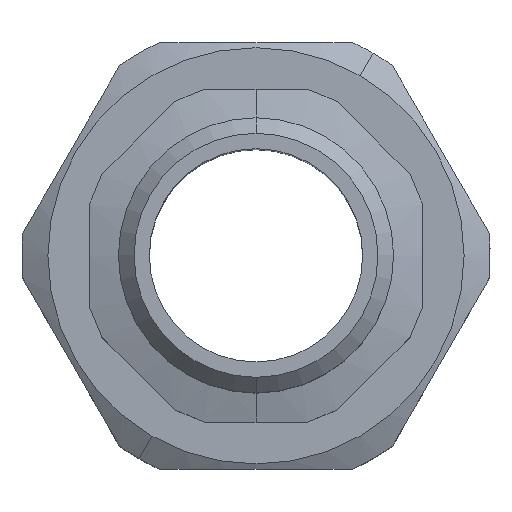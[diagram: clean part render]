
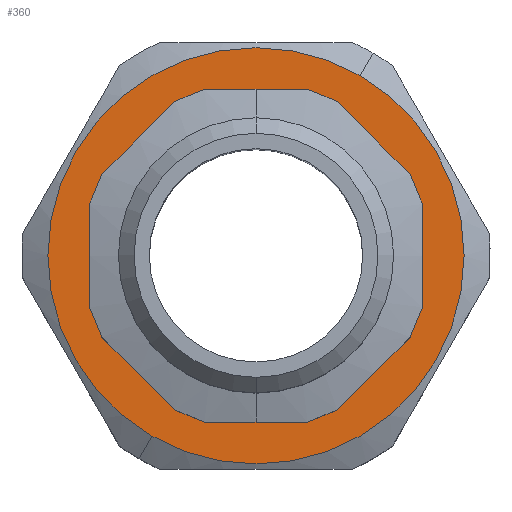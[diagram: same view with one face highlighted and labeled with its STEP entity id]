
A CAD part, top view. The second image highlights one B-rep face of the part: STEP entity #360.
In plain terms, the highlighted planar face has unit normal (0, 0, 1).
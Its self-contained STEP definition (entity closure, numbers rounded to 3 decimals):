
#10=CARTESIAN_POINT('',(65.526,46.757,-43.04));
#20=DIRECTION('',(0.,0.,1.));
#30=DIRECTION('',(1.,0.,0.));
#40=AXIS2_PLACEMENT_3D('',#10,#20,#30);
#50=PLANE('',#40);
#60=CARTESIAN_POINT('',(84.151,46.757,-43.04));
#70=DIRECTION('',(0.,0.,-1.));
#80=DIRECTION('',(1.,0.,0.));
#90=AXIS2_PLACEMENT_3D('',#60,#70,#80);
#100=CIRCLE('',#90,15.5);
#110=CARTESIAN_POINT('',(68.651,46.757,-43.04));
#120=VERTEX_POINT('',#110);
#130=CARTESIAN_POINT('',(99.651,46.757,-43.04));
#140=VERTEX_POINT('',#130);
#150=EDGE_CURVE('',#120,#140,#100,.T.);
#160=ORIENTED_EDGE('',*,*,#150,.T.);
#170=EDGE_CURVE('',#140,#120,#100,.T.);
#180=ORIENTED_EDGE('',*,*,#170,.T.);
#190=EDGE_LOOP('',(#180,#160));
#200=FACE_BOUND('',#190,.T.);
#210=CARTESIAN_POINT('',(84.151,46.757,-43.04));
#220=DIRECTION('',(0.,0.,-1.));
#230=DIRECTION('',(-1.,0.,0.));
#240=AXIS2_PLACEMENT_3D('',#210,#220,#230);
#250=CIRCLE('',#240,20.);
#260=CARTESIAN_POINT('',(74.151,29.436,-43.04));
#270=VERTEX_POINT('',#260);
#280=CARTESIAN_POINT('',(94.151,64.077,-43.04));
#290=VERTEX_POINT('',#280);
#300=EDGE_CURVE('',#270,#290,#250,.T.);
#310=ORIENTED_EDGE('',*,*,#300,.F.);
#320=EDGE_CURVE('',#290,#270,#250,.T.);
#330=ORIENTED_EDGE('',*,*,#320,.F.);
#340=EDGE_LOOP('',(#330,#310));
#350=FACE_OUTER_BOUND('',#340,.T.);
#360=ADVANCED_FACE('',(#200,#350),#50,.T.);
